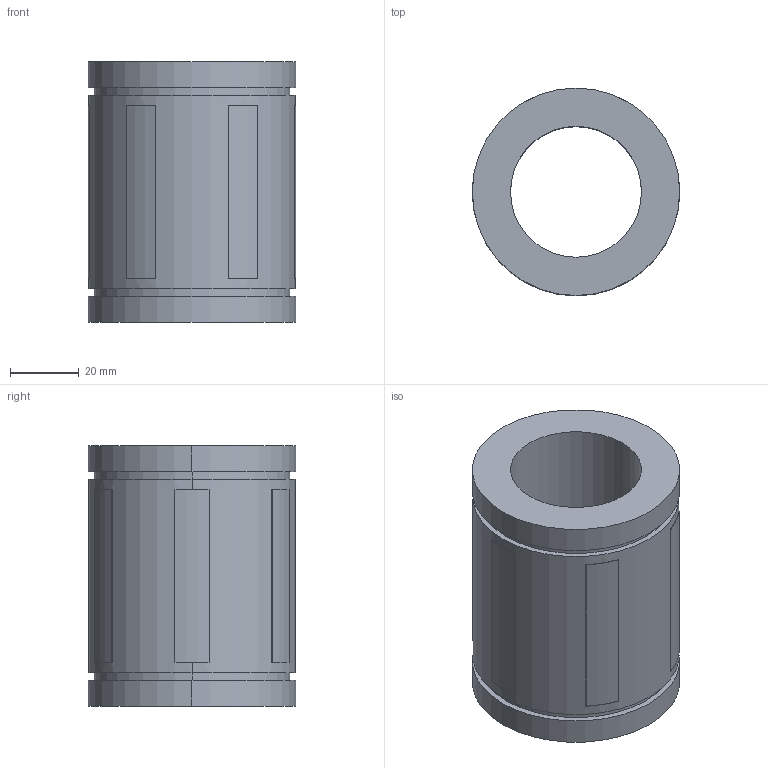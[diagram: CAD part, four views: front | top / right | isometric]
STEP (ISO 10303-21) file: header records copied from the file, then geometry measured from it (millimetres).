
FILE_DESCRIPTION((''),'2;1');
FILE_NAME('C:\Documents and Settings\ｿﾀﾀ蠑ｷ1\ｹﾙﾅﾁ ﾈｭｸ饅\ｺﾎﾇｰﾆﾄﾀﾏ\ﾁｦﾇｰ\LMBS__UU\LMBS24UU.stp','2005-06-15T13:59:52',('ｿﾀﾀ蠑ｷ1'),(''),'Autodesk Inventor 9','Autodesk Inventor 9','');
FILE_SCHEMA(('AUTOMOTIVE_DESIGN { 1 0 10303 214 1 1 1 1 }'));
Length unit declared in the file: millimetre
Products named in the file (1): LMBS__
Bounding box: 60.33 x 60.33 x 75.8 mm (x, y, z)
Volume: 127980.8 mm3; surface area: 28088.2 mm2
Topology: 1 solids, 1 shells, 48 faces, 114 edges, 76 vertices
Faces by surface type: plane 28, cylinder 16, bspline 4
Entity records: 1463 total; most frequent: CARTESIAN_POINT 279, DIRECTION 256, ORIENTED_EDGE 228, EDGE_CURVE 114, AXIS2_PLACEMENT_3D 97, VERTEX_POINT 76, VECTOR 62, LINE 62
